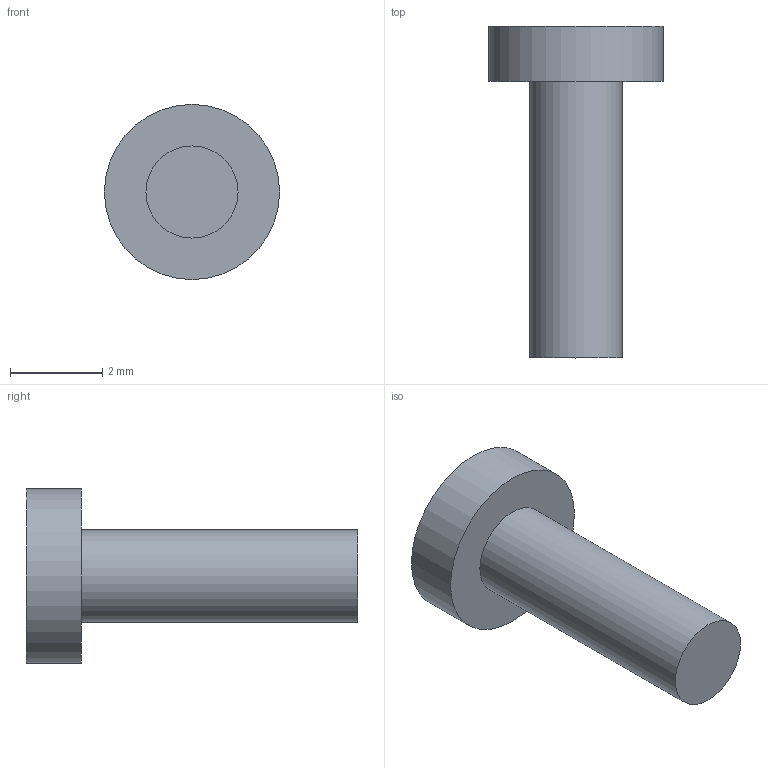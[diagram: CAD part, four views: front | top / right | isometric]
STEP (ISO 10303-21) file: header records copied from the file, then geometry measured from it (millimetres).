
FILE_DESCRIPTION(('Open CASCADE Model'),'2;1');
FILE_NAME('Open CASCADE Shape Model','2026-11-23T18:10:00',('Author'),( 'Open CASCADE'),'Open CASCADE STEP processor 8.0','build123d', 'Unknown');
FILE_SCHEMA(('AUTOMOTIVE_DESIGN { 1 0 10303 214 1 1 1 1 }'));
Length unit declared in the file: millimetre
Products named in the file (1): SOLID
Bounding box: 3.8 x 7.2 x 3.8 mm (x, y, z)
Volume: 32.5 mm3; surface area: 74.7 mm2
Topology: 1 solids, 1 shells, 5 faces, 6 edges, 4 vertices
Faces by surface type: plane 3, cylinder 2
Full cylindrical faces by diameter (mm): 2 x1, 3.8 x1
Entity records: 192 total; most frequent: DIRECTION 34, CARTESIAN_POINT 28, ORIENTED_EDGE 12, PCURVE 12, DEFINITIONAL_REPRESENTATION 12, AXIS2_PLACEMENT_3D 10, LINE 10, VECTOR 10
